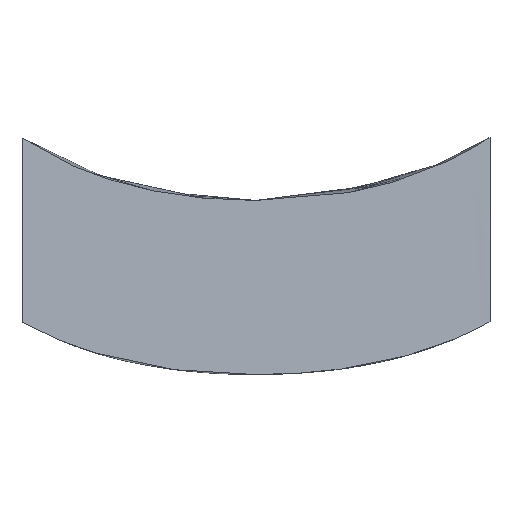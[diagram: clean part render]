
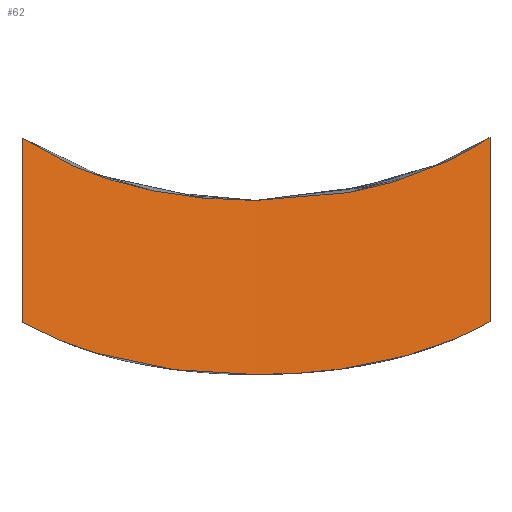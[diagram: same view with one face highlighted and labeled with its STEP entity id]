
A CAD part, front view. The second image highlights one B-rep face of the part: STEP entity #62.
In plain terms, the highlighted free-form (B-spline) face has degree [2, 1] with [3, 2] control points.
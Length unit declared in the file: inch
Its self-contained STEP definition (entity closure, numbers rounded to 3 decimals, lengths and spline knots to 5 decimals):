
#62=ADVANCED_FACE('',(#121),#122,.F.);
#121=FACE_OUTER_BOUND('',#212,.T.);
#122=B_SPLINE_SURFACE_WITH_KNOTS('',2,1,((#213,#214),(#215,#216),(#217,#218)),.UNSPECIFIED.,.F.,.F.,.F.,(3,3),(2,2),(-1.0,-0.0),(0.0,0.52221),.UNSPECIFIED.);
#212=EDGE_LOOP('',(#328,#329,#330,#331,#332,#333));
#213=CARTESIAN_POINT('',(0.5002,0.13352,-0.15295));
#214=CARTESIAN_POINT('',(0.5002,0.13352,0.36926));
#215=CARTESIAN_POINT('',(0.4896,0.13141,-0.15295));
#216=CARTESIAN_POINT('',(0.4896,0.13141,0.36926));
#217=CARTESIAN_POINT('',(0.,0.,-0.15295));
#218=CARTESIAN_POINT('',(0.,0.,0.36926));
#328=ORIENTED_EDGE('',*,*,#415,.F.);
#329=ORIENTED_EDGE('',*,*,#416,.F.);
#330=ORIENTED_EDGE('',*,*,#417,.F.);
#331=ORIENTED_EDGE('',*,*,#398,.F.);
#332=ORIENTED_EDGE('',*,*,#389,.F.);
#333=ORIENTED_EDGE('',*,*,#367,.T.);
#367=EDGE_CURVE('',#431,#429,#432,.T.);
#389=EDGE_CURVE('',#431,#468,#469,.T.);
#398=EDGE_CURVE('',#468,#481,#482,.T.);
#415=EDGE_CURVE('',#504,#429,#505,.T.);
#416=EDGE_CURVE('',#506,#504,#507,.T.);
#417=EDGE_CURVE('',#481,#506,#508,.T.);
#429=VERTEX_POINT('',#521);
#431=VERTEX_POINT('',#526);
#432=LINE('',#527,#528);
#468=VERTEX_POINT('',#651);
#469=B_SPLINE_CURVE_WITH_KNOTS('',3,(#652,#653,#654,#655,#656,#657),.UNSPECIFIED.,.F.,.F.,(4,2,4),(-0.27109,-0.14269,-0.0),.UNSPECIFIED.);
#481=VERTEX_POINT('',#679);
#482=B_SPLINE_CURVE_WITH_KNOTS('',3,(#680,#681,#682,#683,#684,#685,#686,#687),.UNSPECIFIED.,.F.,.F.,(4,2,2,4),(-0.03353,-0.01887,-0.00174,-0.0),.UNSPECIFIED.);
#504=VERTEX_POINT('',#752);
#505=B_SPLINE_CURVE_WITH_KNOTS('',3,(#753,#754,#755,#756,#757,#758),.UNSPECIFIED.,.F.,.F.,(4,2,4),(-0.26689,-0.1254,-0.0),.UNSPECIFIED.);
#506=VERTEX_POINT('',#759);
#507=B_SPLINE_CURVE_WITH_KNOTS('',3,(#760,#761,#762,#763,#764,#765),.UNSPECIFIED.,.F.,.F.,(4,2,4),(-0.36561,-0.14193,-0.0),.UNSPECIFIED.);
#508=LINE('',#766,#767);
#521=CARTESIAN_POINT('',(0.,0.,0.0));
#526=CARTESIAN_POINT('',(0.,0.,0.19682));
#527=CARTESIAN_POINT('',(0.,0.,-0.0413));
#528=VECTOR('',#779,1.0);
#651=CARTESIAN_POINT('',(0.24953,0.06691,0.13023));
#652=CARTESIAN_POINT('',(0.,0.,0.19682));
#653=CARTESIAN_POINT('',(0.0349,0.00937,0.17386));
#654=CARTESIAN_POINT('',(0.07283,0.01954,0.15761));
#655=CARTESIAN_POINT('',(0.15736,0.04221,0.13502));
#656=CARTESIAN_POINT('',(0.20358,0.05461,0.13023));
#657=CARTESIAN_POINT('',(0.24953,0.06691,0.13023));
#679=CARTESIAN_POINT('',(0.5002,0.13352,0.19757));
#680=CARTESIAN_POINT('',(0.24953,0.06691,0.13023));
#681=CARTESIAN_POINT('',(0.29783,0.07984,0.13023));
#682=CARTESIAN_POINT('',(0.34645,0.09285,0.13553));
#683=CARTESIAN_POINT('',(0.44752,0.1198,0.16432));
#684=CARTESIAN_POINT('',(0.48172,0.12891,0.18556));
#685=CARTESIAN_POINT('',(0.49856,0.13314,0.19648));
#686=CARTESIAN_POINT('',(0.49973,0.13343,0.19726));
#687=CARTESIAN_POINT('',(0.5002,0.13352,0.19757));
#752=CARTESIAN_POINT('',(0.24953,0.06691,-0.05585));
#753=CARTESIAN_POINT('',(0.24953,0.06691,-0.05585));
#754=CARTESIAN_POINT('',(0.20399,0.05471,-0.05585));
#755=CARTESIAN_POINT('',(0.15788,0.04236,-0.0519));
#756=CARTESIAN_POINT('',(0.07389,0.01983,-0.03317));
#757=CARTESIAN_POINT('',(0.03563,0.00956,-0.01966));
#758=CARTESIAN_POINT('',(0.0,0.,0.));
#759=CARTESIAN_POINT('',(0.5002,0.13352,0.00063));
#760=CARTESIAN_POINT('',(0.5002,0.13352,0.00063));
#761=CARTESIAN_POINT('',(0.49698,0.13288,-0.00116));
#762=CARTESIAN_POINT('',(0.45662,0.12223,-0.02608));
#763=CARTESIAN_POINT('',(0.3415,0.09153,-0.05187));
#764=CARTESIAN_POINT('',(0.29523,0.07914,-0.05585));
#765=CARTESIAN_POINT('',(0.24953,0.06691,-0.05585));
#766=CARTESIAN_POINT('',(0.5002,0.13352,-0.15295));
#767=VECTOR('',#797,1.0);
#779=DIRECTION('',(0.0,0.0,-1.0));
#797=DIRECTION('',(-0.0,0.0,-1.0));
